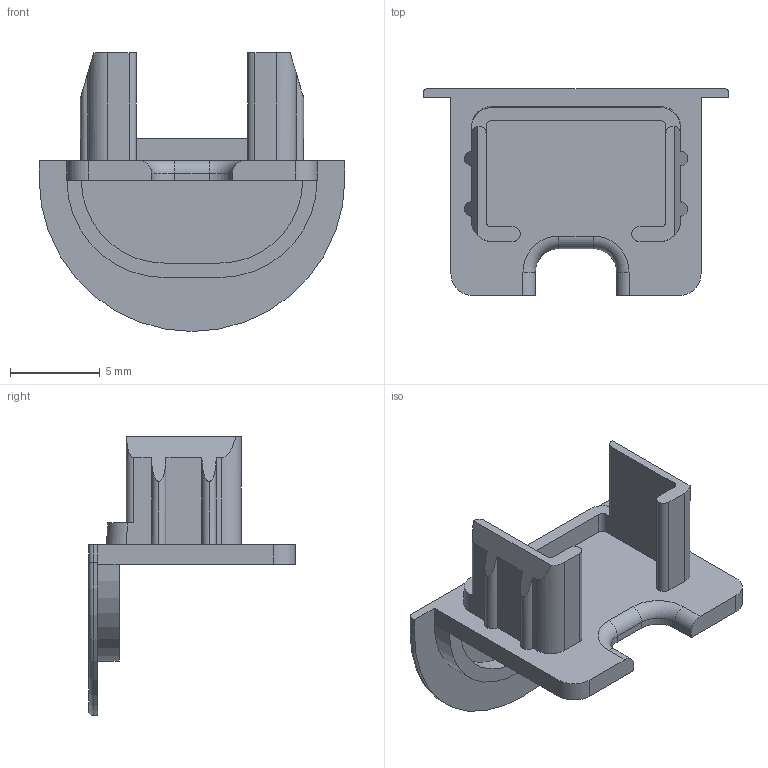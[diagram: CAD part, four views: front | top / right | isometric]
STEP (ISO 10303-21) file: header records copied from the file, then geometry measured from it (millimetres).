
FILE_DESCRIPTION (( 'STEP AP203' ), '1' );
FILE_NAME ('Endkappen_ChannelLine_T1_24.STEP', '2024-11-29T08:38:53', ( '' ), ( '' ), 'SwSTEP 2.0', 'SolidWorks 2023', '' );
FILE_SCHEMA (( 'CONFIG_CONTROL_DESIGN' ));
Length unit declared in the file: millimetre
Products named in the file (1): Endkappen_ChannelLine_T1_24
Bounding box: 17 x 11.5 x 15.5 mm (x, y, z)
Volume: 339.7 mm3; surface area: 854.7 mm2
Topology: 1 solids, 1 shells, 73 faces, 202 edges, 132 vertices
Faces by surface type: plane 36, cylinder 34, torus 3
Entity records: 2410 total; most frequent: CARTESIAN_POINT 450, ORIENTED_EDGE 404, DIRECTION 397, EDGE_CURVE 202, AXIS2_PLACEMENT_3D 135, VERTEX_POINT 132, LINE 127, VECTOR 127
